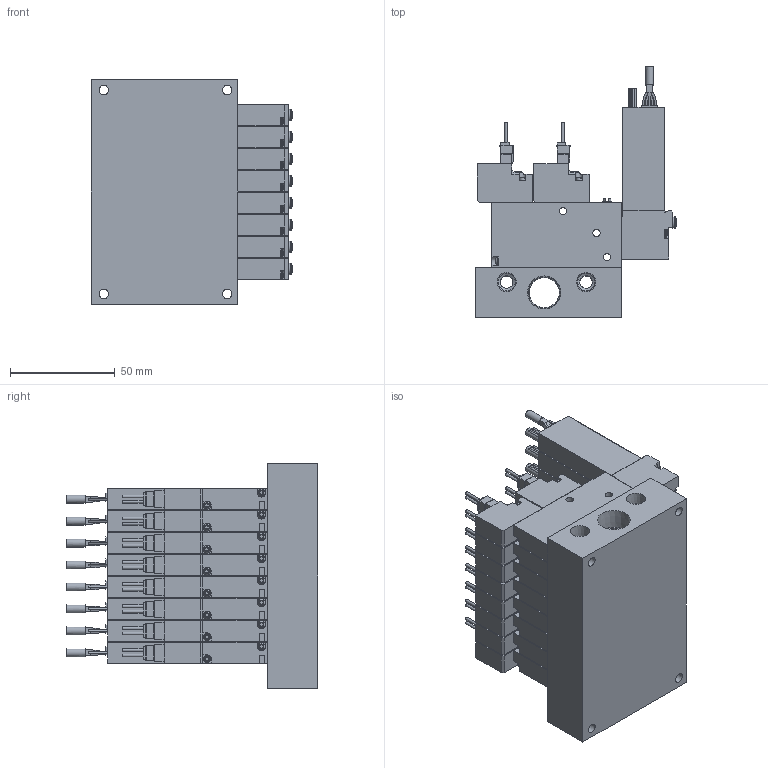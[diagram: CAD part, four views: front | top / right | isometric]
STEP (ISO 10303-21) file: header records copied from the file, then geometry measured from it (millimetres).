
FILE_DESCRIPTION(('STEP AP203'),'1');
FILE_NAME('BMPV42M10.10P.10PS5A(B)808.stp','2025-04-30T07:27:48',(' '),(' '),'Spatial InterOp 3D',' ',' ');
FILE_SCHEMA(('CONFIG_CONTROL_DESIGN'));
Length unit declared in the file: millimetre
Products named in the file (17): BMPV42M10.10P.10PS5A(B)808; VACUUM VALVE FUNCTION MPV42-A; VACUUM SENSOR MPV42-10; UNIT-MPV42; MC4-M8
Assembly tree (33 placements, depth 2):
  BMPV42M10.10P.10PS5A(B)808
    VACUUM VALVE FUNCTION MPV42-A  x10
    VACUUM SENSOR MPV42-10  x5
    UNIT-MPV42  x5
    VACUUM VALVE FUNCTION MPV42-A
    VACUUM VALVE FUNCTION MPV42-A
    UNIT-MPV42
    VACUUM SENSOR MPV42-10
    VACUUM VALVE FUNCTION MPV42-A
    VACUUM VALVE FUNCTION MPV42-A
    UNIT-MPV42
    VACUUM SENSOR MPV42-10
    MC4-M8
    VACUUM VALVE FUNCTION MPV42-A
    VACUUM VALVE FUNCTION MPV42-A
    UNIT-MPV42
    VACUUM SENSOR MPV42-10
Bounding box: 96.35 x 120.3 x 107.5 mm (x, y, z)
Volume: 499948.9 mm3; surface area: 164173 mm2
Topology: 33 solids, 33 shells, 3137 faces, 8450 edges, 5603 vertices
Faces by surface type: plane 2438, cylinder 571, cone 48, sphere 40, torus 40
Full cylindrical faces by diameter (mm): 0.9 x32, 1.4 x32, 1.8 x8, 2.2 x16, 3 x32, 3.5 x88, 3.8 x8, 4.134 x16, 4.5 x4, 5 x8, 5.5 x8, 6 x2, 8.2 x4, 14.5 x1
Entity records: 46432 total; most frequent: CARTESIAN_POINT 8954, ORIENTED_EDGE 7392, DIRECTION 7386, EDGE_CURVE 3696, LINE 2870, VECTOR 2870, VERTEX_POINT 2554, AXIS2_PLACEMENT_3D 2258
